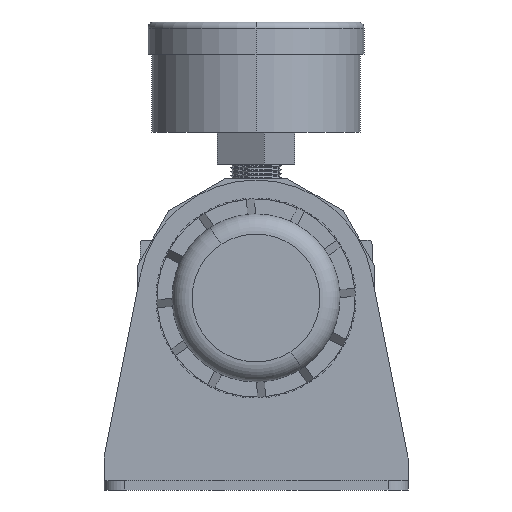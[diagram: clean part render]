
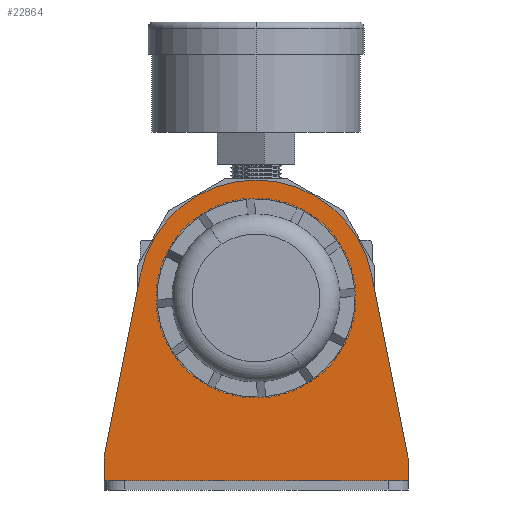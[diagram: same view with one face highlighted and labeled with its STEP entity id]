
A CAD part, front view. The second image highlights one B-rep face of the part: STEP entity #22864.
In plain terms, the highlighted planar face has unit normal (0, -1, 0) as drawn and (0, 1, 0) by its records, which use the part's own axes.
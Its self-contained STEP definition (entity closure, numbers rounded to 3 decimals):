
#344 = DIRECTION ( 'NONE',  ( 0., 1., 0. ) ) ;
#1496 = VERTEX_POINT ( 'NONE', #6482 ) ;
#2187 = CARTESIAN_POINT ( 'NONE',  ( -38., 2.3, -48. ) ) ;
#2586 = LINE ( 'NONE', #2187, #23963 ) ;
#2633 = DIRECTION ( 'NONE',  ( 0., 0., 1. ) ) ;
#2972 = DIRECTION ( 'NONE',  ( 0., 0., -1. ) ) ;
#3717 = CARTESIAN_POINT ( 'NONE',  ( 0., 2.3, -45.7 ) ) ;
#4148 = EDGE_CURVE ( 'NONE', #10932, #1496, #17772, .T. ) ;
#4256 = VECTOR ( 'NONE', #12595, 1000. ) ;
#4477 = DIRECTION ( 'NONE',  ( 0., 0., 1. ) ) ;
#5009 = CIRCLE ( 'NONE', #20778, 24. ) ;
#5077 = EDGE_CURVE ( 'NONE', #24607, #7990, #19042, .T. ) ;
#5086 = EDGE_LOOP ( 'NONE', ( #23818, #17311, #24833, #17856, #5221, #10685 ) ) ;
#5221 = ORIENTED_EDGE ( 'NONE', *, *, #16176, .T. ) ;
#5511 = VERTEX_POINT ( 'NONE', #17131 ) ;
#5778 = VERTEX_POINT ( 'NONE', #16058 ) ;
#6001 = DIRECTION ( 'NONE',  ( 0., 1., 0. ) ) ;
#6482 = CARTESIAN_POINT ( 'NONE',  ( 0., 2.3, -24. ) ) ;
#7143 = VERTEX_POINT ( 'NONE', #23224 ) ;
#7704 = CARTESIAN_POINT ( 'NONE',  ( 0., 2.3, 0. ) ) ;
#7990 = VERTEX_POINT ( 'NONE', #14143 ) ;
#8268 = CARTESIAN_POINT ( 'NONE',  ( -38., 2.3, -40. ) ) ;
#9293 = VERTEX_POINT ( 'NONE', #10842 ) ;
#9897 = AXIS2_PLACEMENT_3D ( 'NONE', #13028, #14924, #2633 ) ;
#10685 = ORIENTED_EDGE ( 'NONE', *, *, #11187, .T. ) ;
#10842 = CARTESIAN_POINT ( 'NONE',  ( 28.937, 2.3, 5.734 ) ) ;
#10932 = VERTEX_POINT ( 'NONE', #23106 ) ;
#11030 = EDGE_LOOP ( 'NONE', ( #24345, #14497 ) ) ;
#11187 = EDGE_CURVE ( 'NONE', #5778, #7990, #24719, .T. ) ;
#11620 = EDGE_CURVE ( 'NONE', #7143, #9293, #16240, .T. ) ;
#11785 = DIRECTION ( 'NONE',  ( 0., 0., 1. ) ) ;
#11840 = FACE_OUTER_BOUND ( 'NONE', #5086, .T. ) ;
#12595 = DIRECTION ( 'NONE',  ( 0.194, 0., -0.981 ) ) ;
#13028 = CARTESIAN_POINT ( 'NONE',  ( 0., 2.3, 0. ) ) ;
#13511 = DIRECTION ( 'NONE',  ( 0., 1., 0. ) ) ;
#14143 = CARTESIAN_POINT ( 'NONE',  ( 38., 2.3, -45.7 ) ) ;
#14497 = ORIENTED_EDGE ( 'NONE', *, *, #17845, .F. ) ;
#14601 = LINE ( 'NONE', #22919, #4256 ) ;
#14924 = DIRECTION ( 'NONE',  ( 0., 1., 0. ) ) ;
#15354 = CARTESIAN_POINT ( 'NONE',  ( 38., 2.3, -48. ) ) ;
#16058 = CARTESIAN_POINT ( 'NONE',  ( 38., 2.3, -40. ) ) ;
#16176 = EDGE_CURVE ( 'NONE', #9293, #5778, #14601, .T. ) ;
#16240 = CIRCLE ( 'NONE', #20523, 29.5 ) ;
#16754 = CARTESIAN_POINT ( 'NONE',  ( 0., 2.3, 0. ) ) ;
#16892 = DIRECTION ( 'NONE',  ( 0., 0., 1. ) ) ;
#17131 = CARTESIAN_POINT ( 'NONE',  ( -38., 2.3, -40. ) ) ;
#17270 = EDGE_CURVE ( 'NONE', #5511, #7143, #24462, .T. ) ;
#17307 = VECTOR ( 'NONE', #20643, 1000. ) ;
#17311 = ORIENTED_EDGE ( 'NONE', *, *, #21112, .T. ) ;
#17772 = CIRCLE ( 'NONE', #9897, 24. ) ;
#17845 = EDGE_CURVE ( 'NONE', #1496, #10932, #5009, .T. ) ;
#17856 = ORIENTED_EDGE ( 'NONE', *, *, #11620, .T. ) ;
#18100 = VECTOR ( 'NONE', #24353, 1000. ) ;
#18608 = FACE_BOUND ( 'NONE', #11030, .T. ) ;
#19042 = LINE ( 'NONE', #3717, #18100 ) ;
#19155 = VECTOR ( 'NONE', #2972, 1000. ) ;
#19194 = CARTESIAN_POINT ( 'NONE',  ( -38., 2.3, -45.7 ) ) ;
#19547 = CARTESIAN_POINT ( 'NONE',  ( 0., 2.3, 0. ) ) ;
#19719 = DIRECTION ( 'NONE',  ( 0., 0., 1. ) ) ;
#20523 = AXIS2_PLACEMENT_3D ( 'NONE', #7704, #6001, #11785 ) ;
#20643 = DIRECTION ( 'NONE',  ( 0.194, 0., 0.981 ) ) ;
#20778 = AXIS2_PLACEMENT_3D ( 'NONE', #19547, #13511, #19719 ) ;
#21112 = EDGE_CURVE ( 'NONE', #24607, #5511, #2586, .T. ) ;
#22864 = ADVANCED_FACE ( 'NONE', ( #18608, #11840 ), #23119, .T. ) ;
#22919 = CARTESIAN_POINT ( 'NONE',  ( 38., 2.3, -40. ) ) ;
#23106 = CARTESIAN_POINT ( 'NONE',  ( 0., 2.3, 24. ) ) ;
#23119 = PLANE ( 'NONE',  #25398 ) ;
#23224 = CARTESIAN_POINT ( 'NONE',  ( -28.937, 2.3, 5.734 ) ) ;
#23818 = ORIENTED_EDGE ( 'NONE', *, *, #5077, .F. ) ;
#23963 = VECTOR ( 'NONE', #16892, 1000. ) ;
#24345 = ORIENTED_EDGE ( 'NONE', *, *, #4148, .F. ) ;
#24353 = DIRECTION ( 'NONE',  ( 1., 0., 0. ) ) ;
#24462 = LINE ( 'NONE', #8268, #17307 ) ;
#24607 = VERTEX_POINT ( 'NONE', #19194 ) ;
#24719 = LINE ( 'NONE', #15354, #19155 ) ;
#24833 = ORIENTED_EDGE ( 'NONE', *, *, #17270, .T. ) ;
#25398 = AXIS2_PLACEMENT_3D ( 'NONE', #16754, #344, #4477 ) ;
